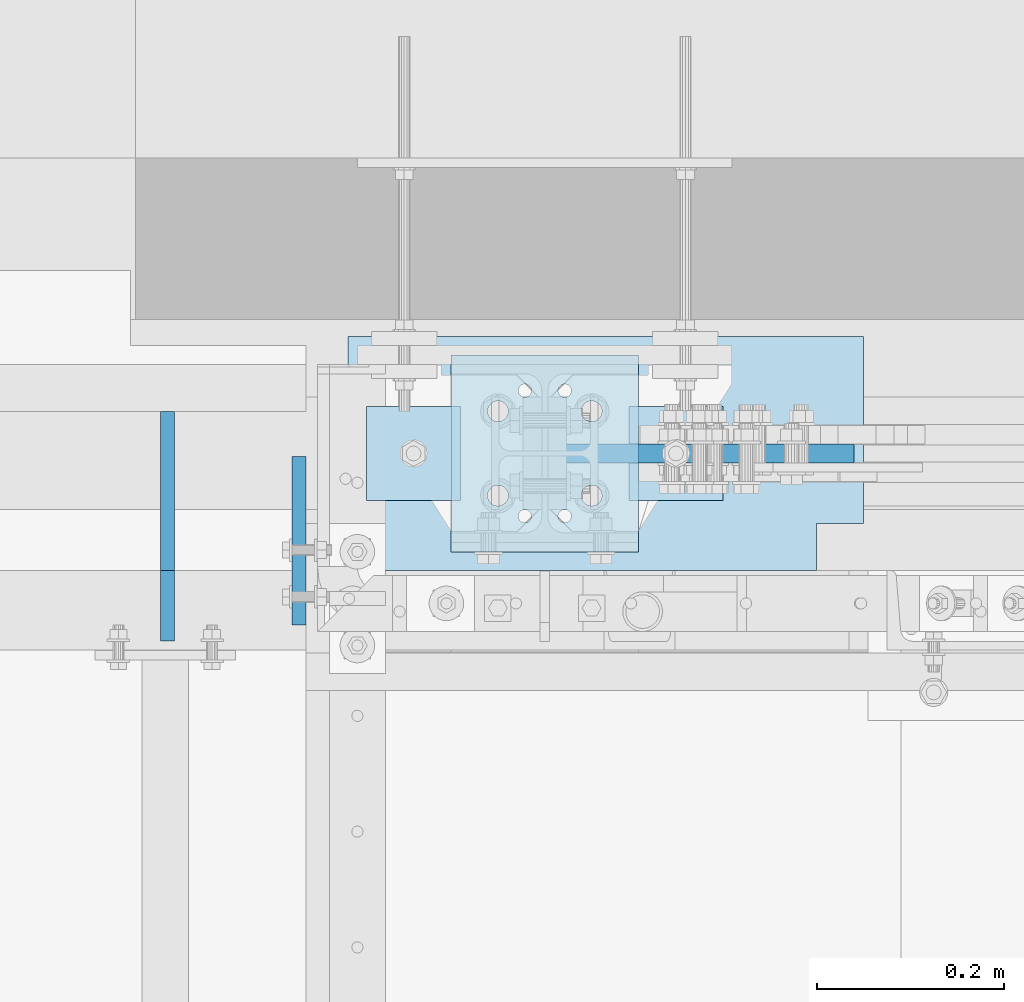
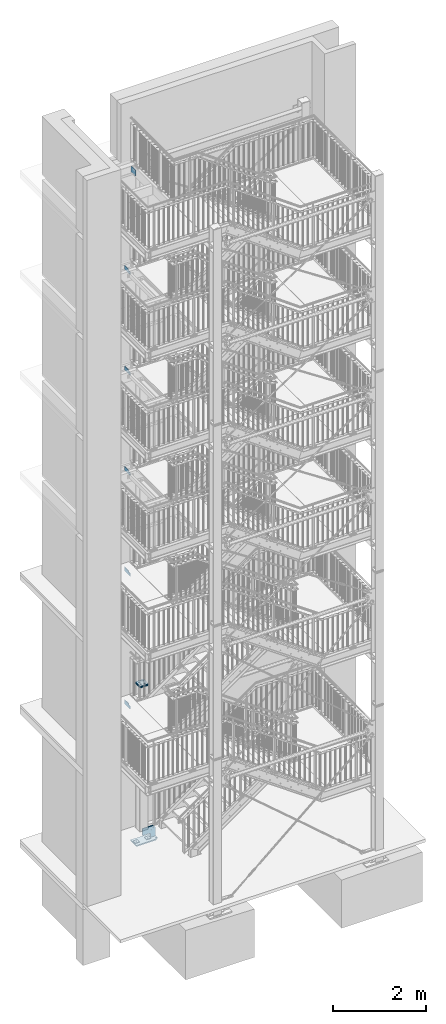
# One storey, part 190 of 831: 12 plates, 34 openings.
"""IFC2X3 building model written with IfcOpenShell, lengths in millimetres."""

import ifcopenshell
import ifcopenshell.guid

model = None  # the IFC model being written
_history = None  # IfcOwnerHistory: only IFC2X3 demands one
_inside = {}  # id of a spatial element -> (the spatial element, [elements in it])
_under = {}  # id of a project, library or spatial element -> (it, [spatial elements below it])
_declared = {}  # id of a project -> (the project, [libraries it declares])
_typed = {}  # id of a type object -> (the type object, [elements of that type])
_made_of = {}  # id of a material, layer set ... -> (it, [elements and type objects made of it])


def new_model(schema):
    """Start an empty IFC model of exactly this schema.

    Asked for "IFC4X3", IfcOpenShell would pick the latest addendum, in which some entities
    have other attributes; the version numbers below select the first issue.
    IFC2X3 requires an IfcOwnerHistory on every rooted entity: one is made here for all.
    """
    global model, _history
    if schema == "IFC4X3":
        model = ifcopenshell.file(schema_version=(4, 3, 0, 0))
    else:
        model = ifcopenshell.file(schema=schema)
    _inside.clear()
    _under.clear()
    _declared.clear()
    _typed.clear()
    _made_of.clear()
    _history = None
    if model.schema == "IFC2X3":
        org = make("IfcOrganization", Name="unknown")
        user = make(
            "IfcPersonAndOrganization",
            ThePerson=make("IfcPerson", FamilyName="unknown"),
            TheOrganization=org,
        )
        app = make(
            "IfcApplication",
            ApplicationDeveloper=org,
            Version="unknown",
            ApplicationFullName="unknown",
            ApplicationIdentifier="unknown",
        )
        _history = make(
            "IfcOwnerHistory",
            OwningUser=user,
            OwningApplication=app,
            ChangeAction="ADDED",
            CreationDate=0,
        )
    return model


def make(cls, **values):
    """One entity of the class cls with the attributes given. An attribute that is None is left unset."""
    return model.create_entity(
        cls, **{name: value for name, value in values.items() if value is not None}
    )


def entity(cls, *values):
    """Any entity or typed value of the class cls, its attributes in the order of the schema. None: left unset."""
    e = model.create_entity(cls)
    for i, value in enumerate(values):
        if value is not None:
            e[i] = value
    return e


def rooted(cls, **values):
    """An entity with a GlobalId (a new one), such as an element, a storey or a relation."""
    return make(cls, GlobalId=ifcopenshell.guid.new(), OwnerHistory=_history, **values)


def si_unit(unit_type, name, prefix=None):
    """IfcSIUnit, for example si_unit("LENGTHUNIT", "METRE", prefix="MILLI")."""
    return make("IfcSIUnit", UnitType=unit_type, Prefix=prefix, Name=name)


def converted_unit(unit_type, name, factor, base, dimensions=None, offset=None):
    """IfcConversionBasedUnit, such as the inch: factor (a typed value) times the base unit."""
    return make(
        "IfcConversionBasedUnit"
        if offset is None
        else "IfcConversionBasedUnitWithOffset",
        ConversionOffset=offset,
        Dimensions=None
        if dimensions is None
        else entity("IfcDimensionalExponents", *dimensions),
        UnitType=unit_type,
        Name=name,
        ConversionFactor=make(
            "IfcMeasureWithUnit", ValueComponent=factor, UnitComponent=base
        ),
    )


def assignment(units):
    """IfcUnitAssignment: the units of a project."""
    return None if units is None else make("IfcUnitAssignment", Units=units)


def point(xyz):
    """IfcCartesianPoint."""
    return None if xyz is None else make("IfcCartesianPoint", Coordinates=xyz)


def direction(xyz):
    """IfcDirection."""
    return None if xyz is None else make("IfcDirection", DirectionRatios=xyz)


def frame(location, z_axis=None, x_axis=None):
    """IfcAxis2Placement3D, a coordinate frame: its origin and axes. An axis left out is left unset."""
    return make(
        "IfcAxis2Placement3D",
        Location=point(location),
        Axis=direction(z_axis),
        RefDirection=direction(x_axis),
    )


def frame_2d(location, x_axis=None):
    """IfcAxis2Placement2D, a coordinate frame in the plane: its origin and x axis."""
    return make(
        "IfcAxis2Placement2D", Location=point(location), RefDirection=direction(x_axis)
    )


def origin():
    """The frame at (0, 0, 0) with its axes left unset."""
    return frame((0.0, 0.0, 0.0))


def origin_with_axes():
    """The frame at (0, 0, 0) with the z axis (0, 0, 1) and the x axis (1, 0, 0) written out."""
    return frame((0.0, 0.0, 0.0), z_axis=(0.0, 0.0, 1.0), x_axis=(1.0, 0.0, 0.0))


def origin_2d_with_axis():
    """The frame at (0, 0) in the plane with the x axis (1, 0) written out."""
    return frame_2d((0.0, 0.0), x_axis=(1.0, 0.0))


def place(relative_to, where):
    """IfcLocalPlacement: puts the frame where relative to a parent placement (None: the world)."""
    return make(
        "IfcLocalPlacement", PlacementRelTo=relative_to, RelativePlacement=where
    )


def context(
    kind, dimensions, precision=None, world=None, true_north=None, identifier=None
):
    """IfcGeometricRepresentationContext, for example the 3D "Model" context."""
    return make(
        "IfcGeometricRepresentationContext",
        ContextIdentifier=identifier,
        ContextType=kind,
        CoordinateSpaceDimension=dimensions,
        Precision=precision,
        WorldCoordinateSystem=world,
        TrueNorth=true_north,
    )


def project(units=None, contexts=None):
    """IfcProject with its units and contexts."""
    return rooted(
        "IfcProject",
        Name="project",
        RepresentationContexts=contexts,
        UnitsInContext=assignment(units),
    )


def spatial(cls, under=None, at=None, **own):
    """A site, building, storey or space (cls), placed at a placement, below another one or the project."""
    s = rooted(cls, ObjectPlacement=at, **own)
    if under is not None:
        _under.setdefault(under.id(), (under, []))[1].append(s)
    return s


def polyline(points):
    """IfcPolyline through the points."""
    return make("IfcPolyline", Points=[point(p) for p in points])


def circle_curve(where, radius):
    """IfcCircle in the frame where."""
    return make("IfcCircle", Position=where, Radius=radius)


def line_curve(start, along, magnitude):
    """IfcLine from a point along a vector."""
    return make(
        "IfcLine",
        Pnt=point(start),
        Dir=make("IfcVector", Orientation=direction(along), Magnitude=magnitude),
    )


def trimmed(basis, trim1, trim2, sense, master):
    """IfcTrimmedCurve: the piece of a basis curve between two trims."""
    return make(
        "IfcTrimmedCurve",
        BasisCurve=basis,
        Trim1=trim1,
        Trim2=trim2,
        SenseAgreement=sense,
        MasterRepresentation=master,
    )


def segment(curve, same_sense, transition):
    """IfcCompositeCurveSegment."""
    return make(
        "IfcCompositeCurveSegment",
        Transition=transition,
        SameSense=same_sense,
        ParentCurve=curve,
    )


def composite_curve(segments, self_intersect=None):
    """IfcCompositeCurve: segments joined end to end."""
    return make("IfcCompositeCurve", Segments=segments, SelfIntersect=self_intersect)


def profile(cls, at=None, kind="AREA", **sizes):
    """A parametric profile (cls). Its sizes go by their IFC names, for example OverallWidth=200.0."""
    return make(cls, ProfileType=kind, Position=at, **sizes)


def circle(**sizes):
    """IfcCircleProfileDef."""
    return profile("IfcCircleProfileDef", **sizes)


def outline(outer, holes=None, kind="AREA"):
    """IfcArbitraryClosedProfileDef: a profile drawn as a closed curve; with holes, ...WithVoids."""
    if holes is None:
        return make("IfcArbitraryClosedProfileDef", ProfileType=kind, OuterCurve=outer)
    return make(
        "IfcArbitraryProfileDefWithVoids",
        ProfileType=kind,
        OuterCurve=outer,
        InnerCurves=holes,
    )


def extrude(swept, where, along, depth):
    """IfcExtrudedAreaSolid: the profile swept, set in the frame where, extruded along a direction by depth."""
    return make(
        "IfcExtrudedAreaSolid",
        SweptArea=swept,
        Position=where,
        ExtrudedDirection=direction(along),
        Depth=depth,
    )


def shape(context_of_items, identifier, shape_type, items):
    """IfcShapeRepresentation: the items that make up one representation, for example the "Body"."""
    return make(
        "IfcShapeRepresentation",
        ContextOfItems=context_of_items,
        RepresentationIdentifier=identifier,
        RepresentationType=shape_type,
        Items=items,
    )


def material(Name=None, Category=None):
    """IfcMaterial."""
    return make("IfcMaterial", Name=Name, Category=Category)


def layer(
    of_material, thickness, ventilated=None, Name=None, Category=None, Priority=None
):
    """IfcMaterialLayer: one layer of a wall or slab, of a material (None: an air gap)."""
    return make(
        "IfcMaterialLayer",
        Material=of_material,
        LayerThickness=thickness,
        IsVentilated=ventilated,
        Name=Name,
        Category=Category,
        Priority=Priority,
    )


def layer_set(layers, Name=None):
    """IfcMaterialLayerSet."""
    return make("IfcMaterialLayerSet", MaterialLayers=layers, LayerSetName=Name)


def made_of(thing, what):
    """Note that an element or type object is made of a material, layer set ...; save() writes the relation."""
    if what is not None:
        _made_of.setdefault(what.id(), (what, []))[1].append(thing)
    return thing


def element(
    cls,
    number,
    at=None,
    inside=None,
    cuts=None,
    type_object=None,
    material=None,
    context=None,
    identifier="Body",
    shape_type=None,
    held_by="IfcProductDefinitionShape",
    body=None,
    shapes=None,
    **own,
):
    """One element of the class cls, such as IfcWall. Its Tag is "e" and its number.

    at: its placement. inside: the storey or other place that contains it. cuts: it is an
    opening in that element (IfcRelVoidsElement). A single representation is given by context,
    identifier, shape_type and body (its items); several are given by shapes. held_by: the class
    of the entity that holds the representations. save() writes the other relations.
    """
    e = rooted(cls, Tag="e%d" % number, ObjectPlacement=at, **own)
    if body is not None:
        shapes = [shape(context, identifier, shape_type, body)]
    if shapes is not None:
        e.Representation = make(held_by, Representations=shapes)
    if inside is not None:
        _inside.setdefault(inside.id(), (inside, []))[1].append(e)
    if cuts is not None:
        rooted(
            "IfcRelVoidsElement", RelatingBuildingElement=cuts, RelatedOpeningElement=e
        )
    if type_object is not None:
        _typed.setdefault(type_object.id(), (type_object, []))[1].append(e)
    return made_of(e, material)


def aggregate(whole, parts):
    """IfcRelAggregates: a whole, such as a stair, and the parts it consists of."""
    return rooted("IfcRelAggregates", RelatingObject=whole, RelatedObjects=parts)


def save(model, path):
    """Write the relations noted so far, then the file.

    IfcRelAggregates (storeys below a building ...), IfcRelContainedInSpatialStructure (elements
    in a storey), IfcRelDefinesByType, IfcRelAssociatesMaterial and IfcRelDeclares: one each for
    every whole, place, type object, material and project.
    """
    for whole, parts in _under.values():
        aggregate(whole, parts)
    for where, things in _inside.values():
        rooted(
            "IfcRelContainedInSpatialStructure",
            RelatedElements=things,
            RelatingStructure=where,
        )
    for kind, things in _typed.values():
        rooted("IfcRelDefinesByType", RelatedObjects=things, RelatingType=kind)
    for what, things in _made_of.values():
        rooted("IfcRelAssociatesMaterial", RelatedObjects=things, RelatingMaterial=what)
    for by, libraries in _declared.values():
        rooted("IfcRelDeclares", RelatingContext=by, RelatedDefinitions=libraries)
    model.write(path)


model = new_model("IFC2X3")

# Units and contexts
model_context = context("Model", 3, precision=1e-09, world=origin_with_axes())
ifc_project = project(units=[si_unit("LENGTHUNIT", "METRE", prefix="MILLI"), si_unit("AREAUNIT", "SQUARE_METRE"), si_unit("VOLUMEUNIT", "CUBIC_METRE"), converted_unit("PLANEANGLEUNIT", "DEGREE", entity("IfcPlaneAngleMeasure", 0.01745329), si_unit("PLANEANGLEUNIT", "RADIAN"), dimensions=[0, 0, 0, 0, 0, 0, 0])], contexts=[model_context])

# Site, building, storey
site_placement = place(None, origin_with_axes())
site = spatial("IfcSite", under=ifc_project, at=site_placement, Name="Site", CompositionType="ELEMENT")
building_placement = place(site_placement, origin_with_axes())
building = spatial("IfcBuilding", under=site, at=building_placement, Name="Struktur 1", CompositionType="ELEMENT")
storey_placement = place(building_placement, origin_with_axes())
storey = spatial("IfcBuildingStorey", under=building, at=storey_placement, Name="Default Storey", CompositionType="ELEMENT", Elevation=0.0)

# Plate, opening
ifc_material = material(Name="S235JR")
ifc_layer_1 = layer(ifc_material, 12.0)
ifc_layer_set_1 = layer_set([ifc_layer_1], Name="S235JR")
plate_1_placement = place(None, frame((4996.713402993, 7516.736971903, 60.0), z_axis=(0.0, 0.0, 1.0), x_axis=(1.0, 0.0, 0.0)))
plate_1 = element("IfcPlate", 1, at=plate_1_placement, inside=storey, material=ifc_layer_set_1, Name="-", ObjectType="-", context=model_context, shape_type="SweptSolid", body=[
    extrude(outline(polyline([(-50.0, -50.0), (50.0, -50.0), (50.0, 50.0), (-50.0, 50.0), (-50.0, -50.0)])), origin_with_axes(), (0.0, 0.0, 1.0), 12.0),
])
opening_1_placement = place(plate_1_placement, frame((1e-09, 1e-09, -0.5), z_axis=(0.0, 0.0, 1.0), x_axis=(1.0, 0.0, 0.0)))
element("IfcOpeningElement", 2, at=opening_1_placement, cuts=plate_1, ObjectType="Opening", context=model_context, shape_type="SweptSolid", body=[
    extrude(circle(Radius=9.001, at=origin_2d_with_axis()), origin(), (0.0, 0.0, 1.0), 13.0),
])

plate_2_placement = place(None, frame((4716.713402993, 7516.736971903, 60.0), z_axis=(0.0, 0.0, 1.0), x_axis=(1.0, 0.0, 0.0)))
plate_2 = element("IfcPlate", 3, at=plate_2_placement, inside=storey, material=ifc_layer_set_1, Name="-", ObjectType="-", context=model_context, shape_type="SweptSolid", body=[
    extrude(outline(polyline([(-50.0, -50.0), (50.0, -50.0), (50.0, 50.0), (-50.0, 50.0), (-50.0, -50.0)])), origin_with_axes(), (0.0, 0.0, 1.0), 12.0),
])
opening_2_placement = place(plate_2_placement, frame((1e-09, 1e-09, -0.5), z_axis=(0.0, 0.0, 1.0), x_axis=(1.0, 0.0, 0.0)))
element("IfcOpeningElement", 4, at=opening_2_placement, cuts=plate_2, ObjectType="Opening", context=model_context, shape_type="SweptSolid", body=[
    extrude(circle(Radius=9.001, at=origin_2d_with_axis()), origin(), (0.0, 0.0, 1.0), 13.0),
])

# Plate, openings
ifc_layer_2 = layer(ifc_material, 20.0)
ifc_layer_set_2 = layer_set([ifc_layer_2], Name="S235JR")
plate_3_placement = place(None, frame((5023.338402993, 7526.736971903, 206.477386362), z_axis=(0.0, -1.0, 0.0), x_axis=(1.0, 0.0, 0.0)))
plate_3 = element("IfcPlate", 5, at=plate_3_placement, inside=storey, material=ifc_layer_set_2, Name="-", ObjectType="-", context=model_context, shape_type="SweptSolid", body=[
    extrude(outline(polyline([(-163.375, -146.477386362), (163.375, -146.477386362), (163.375, 146.477386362), (-163.375, 146.477386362), (-163.375, -146.477386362)])), origin_with_axes(), (0.0, 0.0, 1.0), 20.0),
])
opening_3_placement = place(plate_3_placement, frame((0.0, 0.0, -0.1), z_axis=(0.0, 0.0, 1.0), x_axis=(1.0, 0.0, 0.0)))
element("IfcOpeningElement", 6, at=opening_3_placement, cuts=plate_3, ObjectType="Opening", context=model_context, shape_type="SweptSolid", body=[
    extrude(outline(composite_curve([segment(trimmed(circle_curve(frame_2d((-198.468160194, -200.200309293), x_axis=(1.0, 0.0)), 40.0), [point((-238.468160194, -200.200309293))], [point((-198.468160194, -240.200309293))], True, "CARTESIAN"), True, "CONTINUOUS"), segment(trimmed(line_curve((-198.468160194, -240.200309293), (1.0, 0.0), 201.844160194), [point((-198.468160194, -240.200309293))], [point((3.376, -240.200309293))], True, "CARTESIAN"), True, "CONTINUOUS"), segment(trimmed(circle_curve(frame_2d((3.376, -200.200309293), x_axis=(1.0, 0.0)), 40.0), [point((3.376, -240.200309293))], [point((43.376, -200.200309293))], True, "CARTESIAN"), True, "CONTINUOUS"), segment(trimmed(line_curve((43.376, -200.200309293), (0.0, 1.0), 126.678695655), [point((43.376, -200.200309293))], [point((43.376, -73.521613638))], True, "CARTESIAN"), True, "CONTINUOUS"), segment(trimmed(circle_curve(frame_2d((3.376, -73.521613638), x_axis=(1.0, 0.0)), 40.0), [point((43.376, -73.521613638))], [point((3.376, -33.521613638))], True, "CARTESIAN"), True, "CONTINUOUS"), segment(trimmed(line_curve((3.376, -33.521613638), (-1.0, 0.0), 201.844160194), [point((3.376, -33.521613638))], [point((-198.468160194, -33.521613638))], True, "CARTESIAN"), True, "CONTINUOUS"), segment(trimmed(circle_curve(frame_2d((-198.468160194, -73.521613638), x_axis=(1.0, 0.0)), 40.0), [point((-198.468160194, -33.521613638))], [point((-238.468160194, -73.521613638))], True, "CARTESIAN"), True, "CONTINUOUS"), segment(trimmed(line_curve((-238.468160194, -73.521613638), (0.0, -1.0), 126.678695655), [point((-238.468160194, -73.521613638))], [point((-238.468160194, -200.200309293))], True, "CARTESIAN"), True, "CONTINUOUS")], self_intersect=False)), origin(), (0.0, 0.0, 1.0), 20.2),
])
opening_4_placement = place(plate_3_placement, frame((0.0, 0.0, -0.1), z_axis=(0.0, 0.0, 1.0), x_axis=(1.0, 0.0, 0.0)))
element("IfcOpeningElement", 7, at=opening_4_placement, cuts=plate_3, ObjectType="Opening", context=model_context, shape_type="SweptSolid", body=[
    extrude(outline(polyline([(209.75372237, 203.90627729), (82.436636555, 172.110810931), (190.565352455, 45.142684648), (209.75372237, 203.90627729)])), origin(), (0.0, 0.0, 1.0), 20.2),
])
opening_5_placement = place(plate_3_placement, frame((84.230571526, 69.471100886, -0.5), z_axis=(0.0, 0.0, 1.0), x_axis=(0.757867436, 0.652408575, 0.0)))
element("IfcOpeningElement", 8, at=opening_5_placement, cuts=plate_3, ObjectType="Opening", context=model_context, shape_type="SweptSolid", body=[
    extrude(circle(Radius=9.001, at=frame_2d((30.0, 0.0), x_axis=(1.0, 0.0))), origin(), (0.0, 0.0, 1.0), 21.0),
])
opening_6_placement = place(plate_3_placement, frame((84.230571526, 69.471100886, -0.5), z_axis=(0.0, 0.0, 1.0), x_axis=(0.757867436, 0.652408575, 0.0)))
element("IfcOpeningElement", 9, at=opening_6_placement, cuts=plate_3, ObjectType="Opening", context=model_context, shape_type="SweptSolid", body=[
    extrude(circle(Radius=9.001, at=frame_2d((-30.0, 0.0), x_axis=(1.0, 0.0))), origin(), (0.0, 0.0, 1.0), 21.0),
])

ifc_layer_3 = layer(ifc_material, 30.0)
ifc_layer_set_3 = layer_set([ifc_layer_3], Name="S235JR")
plate_4_placement = place(None, frame((4921.713402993, 7516.736971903, 30.0), z_axis=(0.0, 0.0, 1.0), x_axis=(1.0, 0.0, 0.0)))
plate_4 = element("IfcPlate", 10, at=plate_4_placement, inside=storey, material=ifc_layer_set_3, Name="-", ObjectType="-", context=model_context, shape_type="SweptSolid", body=[
    extrude(outline(polyline([(-275.0, -125.0), (275.0, -125.0), (275.0, 125.0), (-275.0, 125.0), (-275.0, -125.0)])), origin_with_axes(), (0.0, 0.0, 1.0), 30.0),
])
opening_7_placement = place(plate_4_placement, frame((-65.0, 0.0, -0.5), z_axis=(0.0, 0.0, 1.0), x_axis=(1.0, 0.0, 0.0)))
element("IfcOpeningElement", 11, at=opening_7_placement, cuts=plate_4, ObjectType="Opening", context=model_context, shape_type="SweptSolid", body=[
    extrude(circle(Radius=28.001, at=frame_2d((140.0, 0.0), x_axis=(1.0, 0.0))), origin(), (0.0, 0.0, 1.0), 31.0),
])
opening_8_placement = place(plate_4_placement, frame((-65.0, 0.0, -0.5), z_axis=(0.0, 0.0, 1.0), x_axis=(1.0, 0.0, 0.0)))
element("IfcOpeningElement", 12, at=opening_8_placement, cuts=plate_4, ObjectType="Opening", context=model_context, shape_type="SweptSolid", body=[
    extrude(circle(Radius=28.001, at=frame_2d((-140.0, 0.0), x_axis=(1.0, 0.0))), origin(), (0.0, 0.0, 1.0), 31.0),
])
opening_9_placement = place(plate_4_placement, frame((0.0, 0.0, -0.1), z_axis=(0.0, 0.0, 1.0), x_axis=(1.0, 0.0, 0.0)))
element("IfcOpeningElement", 13, at=opening_9_placement, cuts=plate_4, ObjectType="Opening", context=model_context, shape_type="SweptSolid", body=[
    extrude(outline(polyline([(224.999, -185.913522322), (358.335332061, -185.913522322), (358.335332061, -74.999), (224.999, -74.999), (224.999, -185.913522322)])), origin(), (0.0, 0.0, 1.0), 30.2),
])

ifc_layer_4 = layer(ifc_material, 15.0)
ifc_layer_set_4 = layer_set([ifc_layer_4], Name="S235JR")
plate_5_placement = place(None, frame((4601.713402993, 7423.636971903, 17714.000000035), z_axis=(-1.0, 0.0, 0.0), x_axis=(0.0, -1.0, 0.0)))
plate_5 = element("IfcPlate", 14, at=plate_5_placement, inside=storey, material=ifc_layer_set_4, Name="-", ObjectType="-", context=model_context, shape_type="SweptSolid", body=[
    extrude(outline(polyline([(-90.0, -75.0), (90.0, -75.0), (90.0, 75.0), (-90.0, 75.0), (-90.0, -75.0)])), origin_with_axes(), (0.0, 0.0, 1.0), 15.0),
])
opening_10_placement = place(plate_5_placement, frame((35.0, 1e-09, -0.5), z_axis=(0.0, 0.0, 1.0), x_axis=(1.0, 0.0, 0.0)))
element("IfcOpeningElement", 15, at=opening_10_placement, cuts=plate_5, ObjectType="Opening", context=model_context, shape_type="SweptSolid", body=[
    extrude(circle(Radius=7.001, at=frame_2d((25.0, 50.0), x_axis=(1.0, 0.0))), origin(), (0.0, 0.0, 1.0), 16.0),
])
opening_11_placement = place(plate_5_placement, frame((35.0, 1e-09, -0.5), z_axis=(0.0, 0.0, 1.0), x_axis=(1.0, 0.0, 0.0)))
element("IfcOpeningElement", 16, at=opening_11_placement, cuts=plate_5, ObjectType="Opening", context=model_context, shape_type="SweptSolid", body=[
    extrude(circle(Radius=7.001, at=frame_2d((-25.0, 50.0), x_axis=(1.0, 0.0))), origin(), (0.0, 0.0, 1.0), 16.0),
])
opening_12_placement = place(plate_5_placement, frame((35.0, 1e-09, -0.5), z_axis=(0.0, 0.0, 1.0), x_axis=(1.0, 0.0, 0.0)))
element("IfcOpeningElement", 17, at=opening_12_placement, cuts=plate_5, ObjectType="Opening", context=model_context, shape_type="SweptSolid", body=[
    extrude(circle(Radius=7.001, at=frame_2d((25.0, -50.0), x_axis=(1.0, 0.0))), origin(), (0.0, 0.0, 1.0), 16.0),
])
opening_13_placement = place(plate_5_placement, frame((35.0, 1e-09, -0.5), z_axis=(0.0, 0.0, 1.0), x_axis=(1.0, 0.0, 0.0)))
element("IfcOpeningElement", 18, at=opening_13_placement, cuts=plate_5, ObjectType="Opening", context=model_context, shape_type="SweptSolid", body=[
    extrude(circle(Radius=7.001, at=frame_2d((-25.0, -50.0), x_axis=(1.0, 0.0))), origin(), (0.0, 0.0, 1.0), 16.0),
])

# Plate, opening
plate_6_placement = place(None, frame((4461.713402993, 7439.236971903, 3797.0), z_axis=(-1.0, 0.0, 0.0), x_axis=(0.0, -1.0, 0.0)))
plate_6 = element("IfcPlate", 19, at=plate_6_placement, inside=storey, material=ifc_layer_set_4, Name="-", ObjectType="-", context=model_context, shape_type="SweptSolid", body=[
    extrude(outline(polyline([(-122.5, -50.0), (122.5, -50.0), (122.5, 50.0), (-122.5, 50.0), (-122.5, -50.0)])), origin_with_axes(), (0.0, 0.0, 1.0), 15.0),
])
opening_14_placement = place(plate_6_placement, frame((0.0, 0.0, -0.1), z_axis=(0.0, 0.0, 1.0), x_axis=(1.0, 0.0, 0.0)))
element("IfcOpeningElement", 20, at=opening_14_placement, cuts=plate_6, ObjectType="Opening", context=model_context, shape_type="SweptSolid", body=[
    extrude(outline(composite_curve([segment(trimmed(circle_curve(frame_2d((57.499, 29.999), x_axis=(1.0, 0.0)), 10.0), [point((47.499, 29.999))], [point((57.499, 19.999))], True, "CARTESIAN"), True, "CONTINUOUS"), segment(trimmed(line_curve((57.499, 19.999), (1.0, 0.0), 93.063804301), [point((57.499, 19.999))], [point((150.562804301, 19.999))], True, "CARTESIAN"), True, "CONTINUOUS"), segment(trimmed(circle_curve(frame_2d((150.562804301, 29.999), x_axis=(1.0, 0.0)), 10.0), [point((150.562804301, 19.999))], [point((160.562804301, 29.999))], True, "CARTESIAN"), True, "CONTINUOUS"), segment(trimmed(line_curve((160.562804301, 29.999), (0.0, 1.0), 40.184858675), [point((160.562804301, 29.999))], [point((160.562804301, 70.183858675))], True, "CARTESIAN"), True, "CONTINUOUS"), segment(trimmed(circle_curve(frame_2d((150.562804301, 70.183858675), x_axis=(1.0, 0.0)), 10.0), [point((160.562804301, 70.183858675))], [point((150.562804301, 80.183858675))], True, "CARTESIAN"), True, "CONTINUOUS"), segment(trimmed(line_curve((150.562804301, 80.183858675), (-1.0, 0.0), 93.063804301), [point((150.562804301, 80.183858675))], [point((57.499, 80.183858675))], True, "CARTESIAN"), True, "CONTINUOUS"), segment(trimmed(circle_curve(frame_2d((57.499, 70.183858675), x_axis=(1.0, 0.0)), 10.0), [point((57.499, 80.183858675))], [point((47.499, 70.183858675))], True, "CARTESIAN"), True, "CONTINUOUS"), segment(trimmed(line_curve((47.499, 70.183858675), (0.0, -1.0), 40.184858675), [point((47.499, 70.183858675))], [point((47.499, 29.999))], True, "CARTESIAN"), True, "CONTINUOUS")], self_intersect=False)), origin(), (0.0, 0.0, 1.0), 15.2),
])

plate_7_placement = place(None, frame((4461.713402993, 7439.236971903, 7270.0), z_axis=(-1.0, 0.0, 0.0), x_axis=(0.0, -1.0, 0.0)))
plate_7 = element("IfcPlate", 21, at=plate_7_placement, inside=storey, material=ifc_layer_set_4, Name="-", ObjectType="-", context=model_context, shape_type="SweptSolid", body=[
    extrude(outline(polyline([(-122.5, -50.0), (122.5, -50.0), (122.5, 50.0), (-122.5, 50.0), (-122.5, -50.0)])), origin_with_axes(), (0.0, 0.0, 1.0), 15.0),
])
opening_15_placement = place(plate_7_placement, frame((0.0, 0.0, -0.1), z_axis=(0.0, 0.0, 1.0), x_axis=(1.0, 0.0, 0.0)))
element("IfcOpeningElement", 22, at=opening_15_placement, cuts=plate_7, ObjectType="Opening", context=model_context, shape_type="SweptSolid", body=[
    extrude(outline(composite_curve([segment(trimmed(circle_curve(frame_2d((57.499, 29.999), x_axis=(1.0, 0.0)), 10.0), [point((47.499, 29.999))], [point((57.499, 19.999))], True, "CARTESIAN"), True, "CONTINUOUS"), segment(trimmed(line_curve((57.499, 19.999), (1.0, 0.0), 93.063804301), [point((57.499, 19.999))], [point((150.562804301, 19.999))], True, "CARTESIAN"), True, "CONTINUOUS"), segment(trimmed(circle_curve(frame_2d((150.562804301, 29.999), x_axis=(1.0, 0.0)), 10.0), [point((150.562804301, 19.999))], [point((160.562804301, 29.999))], True, "CARTESIAN"), True, "CONTINUOUS"), segment(trimmed(line_curve((160.562804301, 29.999), (0.0, 1.0), 40.184858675), [point((160.562804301, 29.999))], [point((160.562804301, 70.183858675))], True, "CARTESIAN"), True, "CONTINUOUS"), segment(trimmed(circle_curve(frame_2d((150.562804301, 70.183858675), x_axis=(1.0, 0.0)), 10.0), [point((160.562804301, 70.183858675))], [point((150.562804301, 80.183858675))], True, "CARTESIAN"), True, "CONTINUOUS"), segment(trimmed(line_curve((150.562804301, 80.183858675), (-1.0, 0.0), 93.063804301), [point((150.562804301, 80.183858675))], [point((57.499, 80.183858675))], True, "CARTESIAN"), True, "CONTINUOUS"), segment(trimmed(circle_curve(frame_2d((57.499, 70.183858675), x_axis=(1.0, 0.0)), 10.0), [point((57.499, 80.183858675))], [point((47.499, 70.183858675))], True, "CARTESIAN"), True, "CONTINUOUS"), segment(trimmed(line_curve((47.499, 70.183858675), (0.0, -1.0), 40.184858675), [point((47.499, 70.183858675))], [point((47.499, 29.999))], True, "CARTESIAN"), True, "CONTINUOUS")], self_intersect=False)), origin(), (0.0, 0.0, 1.0), 15.2),
])

plate_8_placement = place(None, frame((4461.713402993, 7439.236971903, 9902.0), z_axis=(-1.0, 0.0, 0.0), x_axis=(0.0, -1.0, 0.0)))
plate_8 = element("IfcPlate", 23, at=plate_8_placement, inside=storey, material=ifc_layer_set_4, Name="-", ObjectType="-", context=model_context, shape_type="SweptSolid", body=[
    extrude(outline(polyline([(-122.5, -50.0), (122.5, -50.0), (122.5, 50.0), (-122.5, 50.0), (-122.5, -50.0)])), origin_with_axes(), (0.0, 0.0, 1.0), 15.0),
])
opening_16_placement = place(plate_8_placement, frame((0.0, 0.0, -0.1), z_axis=(0.0, 0.0, 1.0), x_axis=(1.0, 0.0, 0.0)))
element("IfcOpeningElement", 24, at=opening_16_placement, cuts=plate_8, ObjectType="Opening", context=model_context, shape_type="SweptSolid", body=[
    extrude(outline(composite_curve([segment(trimmed(circle_curve(frame_2d((57.499, 29.999), x_axis=(1.0, 0.0)), 10.0), [point((47.499, 29.999))], [point((57.499, 19.999))], True, "CARTESIAN"), True, "CONTINUOUS"), segment(trimmed(line_curve((57.499, 19.999), (1.0, 0.0), 93.063804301), [point((57.499, 19.999))], [point((150.562804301, 19.999))], True, "CARTESIAN"), True, "CONTINUOUS"), segment(trimmed(circle_curve(frame_2d((150.562804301, 29.999), x_axis=(1.0, 0.0)), 10.0), [point((150.562804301, 19.999))], [point((160.562804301, 29.999))], True, "CARTESIAN"), True, "CONTINUOUS"), segment(trimmed(line_curve((160.562804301, 29.999), (0.0, 1.0), 40.184858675), [point((160.562804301, 29.999))], [point((160.562804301, 70.183858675))], True, "CARTESIAN"), True, "CONTINUOUS"), segment(trimmed(circle_curve(frame_2d((150.562804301, 70.183858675), x_axis=(1.0, 0.0)), 10.0), [point((160.562804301, 70.183858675))], [point((150.562804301, 80.183858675))], True, "CARTESIAN"), True, "CONTINUOUS"), segment(trimmed(line_curve((150.562804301, 80.183858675), (-1.0, 0.0), 93.063804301), [point((150.562804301, 80.183858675))], [point((57.499, 80.183858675))], True, "CARTESIAN"), True, "CONTINUOUS"), segment(trimmed(circle_curve(frame_2d((57.499, 70.183858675), x_axis=(1.0, 0.0)), 10.0), [point((57.499, 80.183858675))], [point((47.499, 70.183858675))], True, "CARTESIAN"), True, "CONTINUOUS"), segment(trimmed(line_curve((47.499, 70.183858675), (0.0, -1.0), 40.184858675), [point((47.499, 70.183858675))], [point((47.499, 29.999))], True, "CARTESIAN"), True, "CONTINUOUS")], self_intersect=False)), origin(), (0.0, 0.0, 1.0), 15.2),
])

plate_9_placement = place(None, frame((4461.713402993, 7439.236971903, 12529.0), z_axis=(-1.0, 0.0, 0.0), x_axis=(0.0, -1.0, 0.0)))
plate_9 = element("IfcPlate", 25, at=plate_9_placement, inside=storey, material=ifc_layer_set_4, Name="-", ObjectType="-", context=model_context, shape_type="SweptSolid", body=[
    extrude(outline(polyline([(-122.5, -50.0), (122.5, -50.0), (122.5, 50.0), (-122.5, 50.0), (-122.5, -50.0)])), origin_with_axes(), (0.0, 0.0, 1.0), 15.0),
])
opening_17_placement = place(plate_9_placement, frame((0.0, 0.0, -0.1), z_axis=(0.0, 0.0, 1.0), x_axis=(1.0, 0.0, 0.0)))
element("IfcOpeningElement", 26, at=opening_17_placement, cuts=plate_9, ObjectType="Opening", context=model_context, shape_type="SweptSolid", body=[
    extrude(outline(composite_curve([segment(trimmed(circle_curve(frame_2d((57.499, 29.999), x_axis=(1.0, 0.0)), 10.0), [point((47.499, 29.999))], [point((57.499, 19.999))], True, "CARTESIAN"), True, "CONTINUOUS"), segment(trimmed(line_curve((57.499, 19.999), (1.0, 0.0), 93.063804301), [point((57.499, 19.999))], [point((150.562804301, 19.999))], True, "CARTESIAN"), True, "CONTINUOUS"), segment(trimmed(circle_curve(frame_2d((150.562804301, 29.999), x_axis=(1.0, 0.0)), 10.0), [point((150.562804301, 19.999))], [point((160.562804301, 29.999))], True, "CARTESIAN"), True, "CONTINUOUS"), segment(trimmed(line_curve((160.562804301, 29.999), (0.0, 1.0), 40.184858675), [point((160.562804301, 29.999))], [point((160.562804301, 70.183858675))], True, "CARTESIAN"), True, "CONTINUOUS"), segment(trimmed(circle_curve(frame_2d((150.562804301, 70.183858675), x_axis=(1.0, 0.0)), 10.0), [point((160.562804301, 70.183858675))], [point((150.562804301, 80.183858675))], True, "CARTESIAN"), True, "CONTINUOUS"), segment(trimmed(line_curve((150.562804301, 80.183858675), (-1.0, 0.0), 93.063804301), [point((150.562804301, 80.183858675))], [point((57.499, 80.183858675))], True, "CARTESIAN"), True, "CONTINUOUS"), segment(trimmed(circle_curve(frame_2d((57.499, 70.183858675), x_axis=(1.0, 0.0)), 10.0), [point((57.499, 80.183858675))], [point((47.499, 70.183858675))], True, "CARTESIAN"), True, "CONTINUOUS"), segment(trimmed(line_curve((47.499, 70.183858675), (0.0, -1.0), 40.184858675), [point((47.499, 70.183858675))], [point((47.499, 29.999))], True, "CARTESIAN"), True, "CONTINUOUS")], self_intersect=False)), origin(), (0.0, 0.0, 1.0), 15.2),
])

plate_10_placement = place(None, frame((4461.713402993, 7439.236971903, 15164.0), z_axis=(-1.0, 0.0, 0.0), x_axis=(0.0, -1.0, 0.0)))
plate_10 = element("IfcPlate", 27, at=plate_10_placement, inside=storey, material=ifc_layer_set_4, Name="-", ObjectType="-", context=model_context, shape_type="SweptSolid", body=[
    extrude(outline(polyline([(-122.5, -50.0), (122.5, -50.0), (122.5, 50.0), (-122.5, 50.0), (-122.5, -50.0)])), origin_with_axes(), (0.0, 0.0, 1.0), 15.0),
])
opening_18_placement = place(plate_10_placement, frame((0.0, 0.0, -0.1), z_axis=(0.0, 0.0, 1.0), x_axis=(1.0, 0.0, 0.0)))
element("IfcOpeningElement", 28, at=opening_18_placement, cuts=plate_10, ObjectType="Opening", context=model_context, shape_type="SweptSolid", body=[
    extrude(outline(composite_curve([segment(trimmed(circle_curve(frame_2d((57.499, 29.999), x_axis=(1.0, 0.0)), 10.0), [point((47.499, 29.999))], [point((57.499, 19.999))], True, "CARTESIAN"), True, "CONTINUOUS"), segment(trimmed(line_curve((57.499, 19.999), (1.0, 0.0), 93.063804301), [point((57.499, 19.999))], [point((150.562804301, 19.999))], True, "CARTESIAN"), True, "CONTINUOUS"), segment(trimmed(circle_curve(frame_2d((150.562804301, 29.999), x_axis=(1.0, 0.0)), 10.0), [point((150.562804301, 19.999))], [point((160.562804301, 29.999))], True, "CARTESIAN"), True, "CONTINUOUS"), segment(trimmed(line_curve((160.562804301, 29.999), (0.0, 1.0), 40.184858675), [point((160.562804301, 29.999))], [point((160.562804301, 70.183858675))], True, "CARTESIAN"), True, "CONTINUOUS"), segment(trimmed(circle_curve(frame_2d((150.562804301, 70.183858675), x_axis=(1.0, 0.0)), 10.0), [point((160.562804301, 70.183858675))], [point((150.562804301, 80.183858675))], True, "CARTESIAN"), True, "CONTINUOUS"), segment(trimmed(line_curve((150.562804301, 80.183858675), (-1.0, 0.0), 93.063804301), [point((150.562804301, 80.183858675))], [point((57.499, 80.183858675))], True, "CARTESIAN"), True, "CONTINUOUS"), segment(trimmed(circle_curve(frame_2d((57.499, 70.183858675), x_axis=(1.0, 0.0)), 10.0), [point((57.499, 80.183858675))], [point((47.499, 70.183858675))], True, "CARTESIAN"), True, "CONTINUOUS"), segment(trimmed(line_curve((47.499, 70.183858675), (0.0, -1.0), 40.184858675), [point((47.499, 70.183858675))], [point((47.499, 29.999))], True, "CARTESIAN"), True, "CONTINUOUS")], self_intersect=False)), origin(), (0.0, 0.0, 1.0), 15.2),
])

# Plate, openings
ifc_layer_5 = layer(ifc_material, 25.0)
ifc_layer_set_5 = layer_set([ifc_layer_5], Name="S235JR")
plate_11_placement = place(None, frame((4856.713402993, 7516.736971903, 4150.0), z_axis=(0.0, 0.0, -1.0), x_axis=(0.0, 1.0, 0.0)))
plate_11 = element("IfcPlate", 29, at=plate_11_placement, inside=storey, material=ifc_layer_set_5, Name="Endplate#1", ObjectType="Endplate#1", context=model_context, shape_type="SweptSolid", body=[
    extrude(outline(polyline([(-105.0, -100.0), (105.0, -100.0), (105.0, 100.0), (-105.0, 100.0), (-105.0, -100.0)])), origin_with_axes(), (0.0, 0.0, 1.0), 25.0),
])
opening_19_placement = place(plate_11_placement, frame((67.0, 21.25, -0.5), z_axis=(0.0, 0.0, 1.0), x_axis=(1.0, 0.0, 0.0)))
element("IfcOpeningElement", 30, at=opening_19_placement, cuts=plate_11, ObjectType="Opening", context=model_context, shape_type="SweptSolid", body=[
    extrude(circle(Radius=7.001, at=origin_2d_with_axis()), origin(), (0.0, 0.0, 1.0), 26.0),
])
opening_20_placement = place(plate_11_placement, frame((-67.0, 21.25, -0.5), z_axis=(0.0, 0.0, 1.0), x_axis=(1.0, 0.0, 0.0)))
element("IfcOpeningElement", 31, at=opening_20_placement, cuts=plate_11, ObjectType="Opening", context=model_context, shape_type="SweptSolid", body=[
    extrude(circle(Radius=7.001, at=origin_2d_with_axis()), origin(), (0.0, 0.0, 1.0), 26.0),
])
opening_21_placement = place(plate_11_placement, frame((-67.0, -21.25, -0.5), z_axis=(0.0, 0.0, 1.0), x_axis=(1.0, 0.0, 0.0)))
element("IfcOpeningElement", 32, at=opening_21_placement, cuts=plate_11, ObjectType="Opening", context=model_context, shape_type="SweptSolid", body=[
    extrude(circle(Radius=7.001, at=origin_2d_with_axis()), origin(), (0.0, 0.0, 1.0), 26.0),
])
opening_22_placement = place(plate_11_placement, frame((67.0, -21.25, -0.5), z_axis=(0.0, 0.0, 1.0), x_axis=(1.0, 0.0, 0.0)))
element("IfcOpeningElement", 33, at=opening_22_placement, cuts=plate_11, ObjectType="Opening", context=model_context, shape_type="SweptSolid", body=[
    extrude(circle(Radius=7.001, at=origin_2d_with_axis()), origin(), (0.0, 0.0, 1.0), 26.0),
])
opening_23_placement = place(plate_11_placement, frame((45.0, 61.001, 25.5), z_axis=(0.0, 0.0, 1.0), x_axis=(1.0, 0.0, 0.0)))
element("IfcOpeningElement", 34, at=opening_23_placement, cuts=plate_11, ObjectType="Opening", context=model_context, shape_type="SweptSolid", body=[
    extrude(circle(Radius=11.001, at=frame_2d((0.0, -11.001), x_axis=(1.0, 0.0))), origin(), (0.0, 0.0, -1.0), 26.0),
])
opening_24_placement = place(plate_11_placement, frame((-45.0, 61.001, 25.5), z_axis=(0.0, 0.0, 1.0), x_axis=(1.0, 0.0, 0.0)))
element("IfcOpeningElement", 35, at=opening_24_placement, cuts=plate_11, ObjectType="Opening", context=model_context, shape_type="SweptSolid", body=[
    extrude(circle(Radius=11.001, at=frame_2d((0.0, -11.001), x_axis=(1.0, 0.0))), origin(), (0.0, 0.0, -1.0), 26.0),
])
opening_25_placement = place(plate_11_placement, frame((45.0, -38.999, 25.5), z_axis=(0.0, 0.0, 1.0), x_axis=(1.0, 0.0, 0.0)))
element("IfcOpeningElement", 36, at=opening_25_placement, cuts=plate_11, ObjectType="Opening", context=model_context, shape_type="SweptSolid", body=[
    extrude(circle(Radius=11.001, at=frame_2d((0.0, -11.001), x_axis=(1.0, 0.0))), origin(), (0.0, 0.0, -1.0), 26.0),
])
opening_26_placement = place(plate_11_placement, frame((-45.0, -38.999, 25.5), z_axis=(0.0, 0.0, 1.0), x_axis=(1.0, 0.0, 0.0)))
element("IfcOpeningElement", 37, at=opening_26_placement, cuts=plate_11, ObjectType="Opening", context=model_context, shape_type="SweptSolid", body=[
    extrude(circle(Radius=11.001, at=frame_2d((0.0, -11.001), x_axis=(1.0, 0.0))), origin(), (0.0, 0.0, -1.0), 26.0),
])

plate_12_placement = place(None, frame((4856.713402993, 7516.736971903, 4175.0), z_axis=(0.0, 0.0, -1.0), x_axis=(0.0, 1.0, 0.0)))
plate_12 = element("IfcPlate", 38, at=plate_12_placement, inside=storey, material=ifc_layer_set_5, Name="Endplate#2", ObjectType="Endplate#2", context=model_context, shape_type="SweptSolid", body=[
    extrude(outline(polyline([(-105.0, -100.0), (105.0, -100.0), (105.0, 100.0), (-105.0, 100.0), (-105.0, -100.0)])), origin_with_axes(), (0.0, 0.0, 1.0), 25.0),
])
opening_27_placement = place(plate_12_placement, frame((67.0, 21.25, 25.5), z_axis=(0.0, 0.0, -1.0), x_axis=(-1.0, 0.0, 0.0)))
element("IfcOpeningElement", 39, at=opening_27_placement, cuts=plate_12, ObjectType="Opening", context=model_context, shape_type="SweptSolid", body=[
    extrude(circle(Radius=7.001, at=origin_2d_with_axis()), origin(), (0.0, 0.0, 1.0), 26.0),
])
opening_28_placement = place(plate_12_placement, frame((-67.0, 21.25, 25.5), z_axis=(0.0, 0.0, -1.0), x_axis=(-1.0, 0.0, 0.0)))
element("IfcOpeningElement", 40, at=opening_28_placement, cuts=plate_12, ObjectType="Opening", context=model_context, shape_type="SweptSolid", body=[
    extrude(circle(Radius=7.001, at=origin_2d_with_axis()), origin(), (0.0, 0.0, 1.0), 26.0),
])
opening_29_placement = place(plate_12_placement, frame((-67.0, -21.25, 25.5), z_axis=(0.0, 0.0, -1.0), x_axis=(-1.0, 0.0, 0.0)))
element("IfcOpeningElement", 41, at=opening_29_placement, cuts=plate_12, ObjectType="Opening", context=model_context, shape_type="SweptSolid", body=[
    extrude(circle(Radius=7.001, at=origin_2d_with_axis()), origin(), (0.0, 0.0, 1.0), 26.0),
])
opening_30_placement = place(plate_12_placement, frame((67.0, -21.25, 25.5), z_axis=(0.0, 0.0, -1.0), x_axis=(-1.0, 0.0, 0.0)))
element("IfcOpeningElement", 42, at=opening_30_placement, cuts=plate_12, ObjectType="Opening", context=model_context, shape_type="SweptSolid", body=[
    extrude(circle(Radius=7.001, at=origin_2d_with_axis()), origin(), (0.0, 0.0, 1.0), 26.0),
])
opening_31_placement = place(plate_12_placement, frame((45.0, -38.999, 25.5), z_axis=(0.0, 0.0, 1.0), x_axis=(1.0, 0.0, 0.0)))
element("IfcOpeningElement", 43, at=opening_31_placement, cuts=plate_12, ObjectType="Opening", context=model_context, shape_type="SweptSolid", body=[
    extrude(circle(Radius=11.001, at=frame_2d((0.0, -11.001), x_axis=(1.0, 0.0))), origin(), (0.0, 0.0, -1.0), 26.0),
])
opening_32_placement = place(plate_12_placement, frame((-45.0, -38.999, 25.5), z_axis=(0.0, 0.0, 1.0), x_axis=(1.0, 0.0, 0.0)))
element("IfcOpeningElement", 44, at=opening_32_placement, cuts=plate_12, ObjectType="Opening", context=model_context, shape_type="SweptSolid", body=[
    extrude(circle(Radius=11.001, at=frame_2d((0.0, -11.001), x_axis=(1.0, 0.0))), origin(), (0.0, 0.0, -1.0), 26.0),
])
opening_33_placement = place(plate_12_placement, frame((45.0, 61.001, 25.5), z_axis=(0.0, 0.0, 1.0), x_axis=(1.0, 0.0, 0.0)))
element("IfcOpeningElement", 45, at=opening_33_placement, cuts=plate_12, ObjectType="Opening", context=model_context, shape_type="SweptSolid", body=[
    extrude(circle(Radius=11.001, at=frame_2d((0.0, -11.001), x_axis=(1.0, 0.0))), origin(), (0.0, 0.0, -1.0), 26.0),
])
opening_34_placement = place(plate_12_placement, frame((-45.0, 61.001, 25.5), z_axis=(0.0, 0.0, 1.0), x_axis=(1.0, 0.0, 0.0)))
element("IfcOpeningElement", 46, at=opening_34_placement, cuts=plate_12, ObjectType="Opening", context=model_context, shape_type="SweptSolid", body=[
    extrude(circle(Radius=11.001, at=frame_2d((0.0, -11.001), x_axis=(1.0, 0.0))), origin(), (0.0, 0.0, -1.0), 26.0),
])

save(model, "model.ifc")
